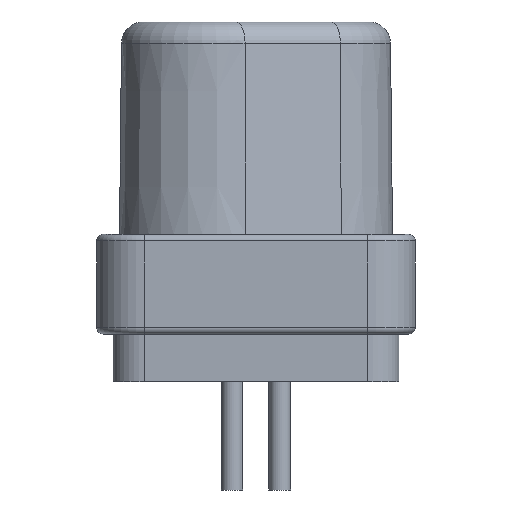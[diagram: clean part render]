
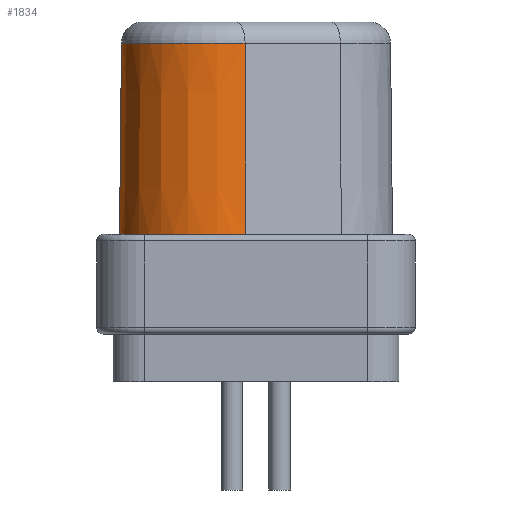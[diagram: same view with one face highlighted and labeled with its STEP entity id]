
A CAD part, left-side view. The second image highlights one B-rep face of the part: STEP entity #1834.
In plain terms, the highlighted conical face has half-angle 0.58 degrees and reference radius 2.05 mm.
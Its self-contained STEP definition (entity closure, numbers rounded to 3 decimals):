
#457 = DIRECTION ( 'NONE',  ( 0., 0., -1. ) ) ;
#523 = DIRECTION ( 'NONE',  ( 0., 0., -1. ) ) ;
#692 = ORIENTED_EDGE ( 'NONE', *, *, #4923, .T. ) ;
#800 = AXIS2_PLACEMENT_3D ( 'NONE', #5387, #3553, #5331 ) ;
#1004 = VECTOR ( 'NONE', #1943, 1000. ) ;
#1317 = CIRCLE ( 'NONE', #4572, 2.05 ) ;
#1370 = CARTESIAN_POINT ( 'NONE',  ( -2.95, -2.575, -0.495 ) ) ;
#1457 = ORIENTED_EDGE ( 'NONE', *, *, #2830, .F. ) ;
#1831 = DIRECTION ( 'NONE',  ( -1., 0., 0. ) ) ;
#1834 = ADVANCED_FACE ( 'NONE', ( #3984 ), #4915, .T. ) ;
#1844 = CARTESIAN_POINT ( 'NONE',  ( -4582.98, -2138.278, -499000. ) ) ;
#1943 = DIRECTION ( 'NONE',  ( 0.009, 0.004, 1. ) ) ;
#2005 = VERTEX_POINT ( 'NONE', #4324 ) ;
#2368 = DIRECTION ( 'NONE',  ( 0., -0.01, 1. ) ) ;
#2371 = CARTESIAN_POINT ( 'NONE',  ( -2.95, -0.57, -0.495 ) ) ;
#2469 = ORIENTED_EDGE ( 'NONE', *, *, #3133, .F. ) ;
#2830 = EDGE_CURVE ( 'NONE', #4436, #2005, #1317, .T. ) ;
#2833 = CARTESIAN_POINT ( 'NONE',  ( -2.95, -0.525, -4.988 ) ) ;
#2866 = ORIENTED_EDGE ( 'NONE', *, *, #4138, .T. ) ;
#3133 = EDGE_CURVE ( 'NONE', #2005, #3411, #5489, .T. ) ;
#3194 = CARTESIAN_POINT ( 'NONE',  ( -2.95, -2.575, -4.9 ) ) ;
#3411 = VERTEX_POINT ( 'NONE', #2371 ) ;
#3513 = CARTESIAN_POINT ( 'NONE',  ( -4.767, -3.422, -0.495 ) ) ;
#3553 = DIRECTION ( 'NONE',  ( 0., 0., -1. ) ) ;
#3605 = LINE ( 'NONE', #1844, #1004 ) ;
#3622 = VERTEX_POINT ( 'NONE', #3513 ) ;
#3649 = VECTOR ( 'NONE', #2368, 1000. ) ;
#3984 = FACE_OUTER_BOUND ( 'NONE', #5722, .T. ) ;
#4001 = AXIS2_PLACEMENT_3D ( 'NONE', #1370, #457, #1831 ) ;
#4138 = EDGE_CURVE ( 'NONE', #3622, #3411, #4551, .T. ) ;
#4324 = CARTESIAN_POINT ( 'NONE',  ( -2.95, -0.525, -4.9 ) ) ;
#4436 = VERTEX_POINT ( 'NONE', #5272 ) ;
#4551 = CIRCLE ( 'NONE', #4001, 2.005 ) ;
#4572 = AXIS2_PLACEMENT_3D ( 'NONE', #3194, #523, #5413 ) ;
#4915 = CONICAL_SURFACE ( 'NONE', #800, 2.05, 0.01 ) ;
#4923 = EDGE_CURVE ( 'NONE', #4436, #3622, #3605, .T. ) ;
#5272 = CARTESIAN_POINT ( 'NONE',  ( -4.808, -3.441, -4.9 ) ) ;
#5331 = DIRECTION ( 'NONE',  ( -1., 0., 0. ) ) ;
#5387 = CARTESIAN_POINT ( 'NONE',  ( -2.95, -2.575, -4.9 ) ) ;
#5413 = DIRECTION ( 'NONE',  ( -1., 0., 0. ) ) ;
#5489 = LINE ( 'NONE', #2833, #3649 ) ;
#5722 = EDGE_LOOP ( 'NONE', ( #2866, #2469, #1457, #692 ) ) ;
